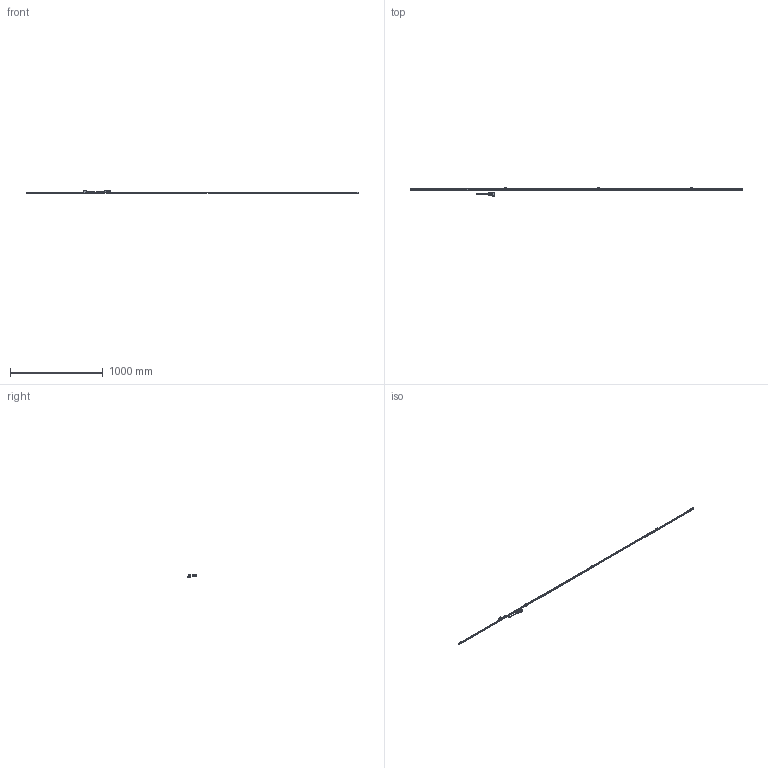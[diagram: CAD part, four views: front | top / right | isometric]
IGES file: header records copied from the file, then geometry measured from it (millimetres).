
Start section: Elysium IGES Interface
Global section: file name: 90H\\Utsu119s\kiyo_cad\data\3D\ABS ST1300\HP掲載用_201803\ST1300-Dタイプ\PKG\ST1300-3400D.igs; native system: Creo Elements/Direct Modeling 18.1B  29-Sep-2012; preprocessor: Creo Element/Direct IGES_3D V2.2; author: Unknown; organization: Unknown; date: 20180301.141159; units: millimetre
Bounding box: 3573 x 88.3 x 30.1 mm (x, y, z)
Volume: 321414.3 mm3; surface area: 207500.3 mm2
Topology: 3 solids, 10 shells, 4441 faces, 12026 edges, 7786 vertices
Faces by surface type: bspline 4441
